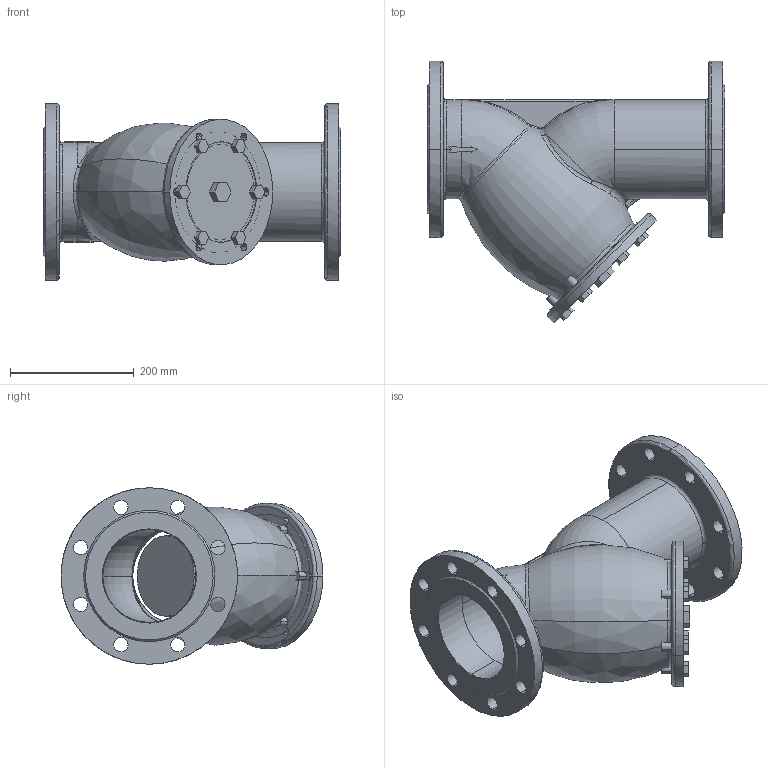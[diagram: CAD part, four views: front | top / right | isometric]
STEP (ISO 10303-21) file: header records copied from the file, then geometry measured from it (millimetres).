
FILE_DESCRIPTION (( 'STEP AP203' ), '1' );
FILE_NAME ('F3240-DN150.STEP', '2017-04-23T07:11:07', ( 'User' ), ( 'shendu' ), 'SwSTEP 2.0', 'SolidWorks 2015', '' );
FILE_SCHEMA (( 'CONFIG_CONTROL_DESIGN' ));
Length unit declared in the file: millimetre
Products named in the file (1): F3240-DN150
Bounding box: 480 x 422.85 x 285 mm (x, y, z)
Volume: 7404250.2 mm3; surface area: 1120844.9 mm2
Topology: 12 solids, 12 shells, 362 faces, 892 edges, 560 vertices
Faces by surface type: cylinder 122, plane 118, bspline 87, torus 24, cone 11
Entity records: 30980 total; most frequent: CARTESIAN_POINT 23064, ORIENTED_EDGE 1758, DIRECTION 1339, EDGE_CURVE 879, VERTEX_POINT 560, AXIS2_PLACEMENT_3D 513, EDGE_LOOP 447, FACE_OUTER_BOUND 362
